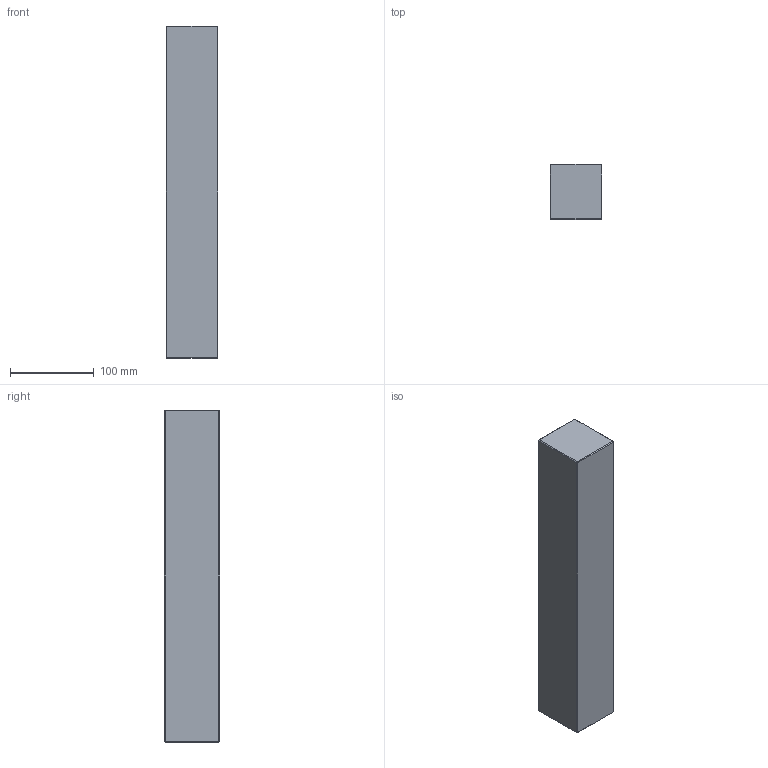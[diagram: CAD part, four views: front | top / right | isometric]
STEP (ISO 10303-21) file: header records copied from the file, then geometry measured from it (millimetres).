
FILE_DESCRIPTION (( 'STEP AP214' ), '1' );
FILE_NAME ('ESP-P-396X396x66.STEP', '2020-04-08T11:13:23', ( 'August' ), ( '' ), 'SwSTEP 2.0', 'SolidWorks 2018', '' );
FILE_SCHEMA (( 'AUTOMOTIVE_DESIGN' ));
Length unit declared in the file: millimetre
Products named in the file (1): ESP-P-396X396x66
Bounding box: 62 x 66 x 396 mm (x, y, z)
Volume: 1619389.3 mm3; surface area: 108329.2 mm2
Topology: 1 solids, 1 shells, 26 faces, 48 edges, 24 vertices
Faces by surface type: plane 26
Entity records: 634 total; most frequent: DIRECTION 102, CARTESIAN_POINT 99, ORIENTED_EDGE 96, VECTOR 48, LINE 48, EDGE_CURVE 48, AXIS2_PLACEMENT_3D 27, PLANE 26
